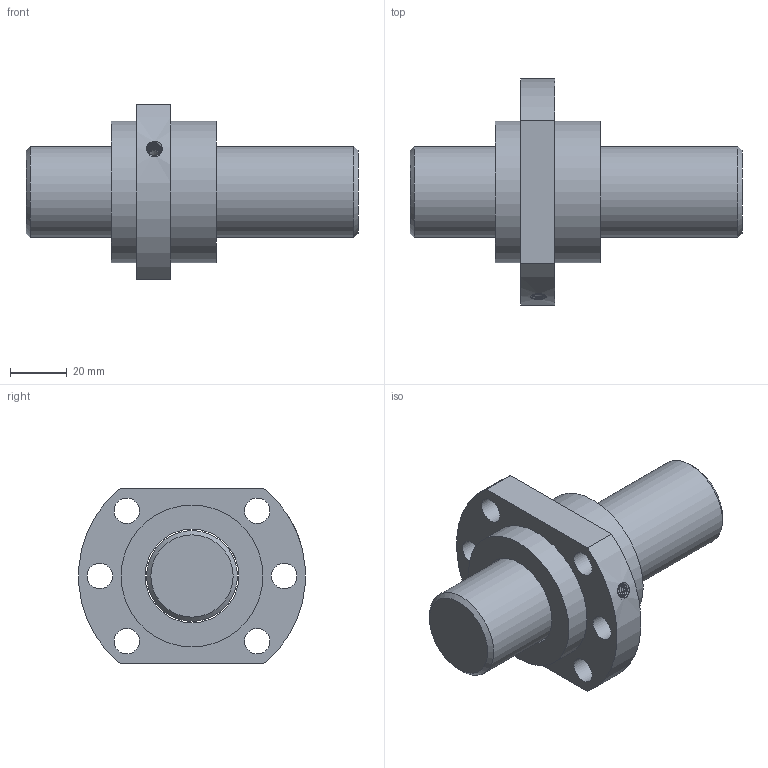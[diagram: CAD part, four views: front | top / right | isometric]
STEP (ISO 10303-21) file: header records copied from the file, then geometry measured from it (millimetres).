
FILE_DESCRIPTION(/* description */ (''),/* implementation_level */ '2;1');
FILE_NAME(/* name */ 'SFH3205-3.8.stp',/* time_stamp */ '2021-02-23T11:29:54+08:00',/* author */ (''),/* organization */ (''),/* preprocessor_version */ 'ST-DEVELOPER v16',/* originating_system */ 'SIEMENS PLM Software NX 10.0',/* authorisation */ '');
FILE_SCHEMA (('AP203_CONFIGURATION_CONTROLLED_3D_DESIGN_OF_MECHANICAL_PARTS_AND_ASSEMBLIES_MIM_LF { 1 0 10303 403 2 1 2}'));
Length unit declared in the file: millimetre
Products named in the file (1): 01541870E69Eyk1k
Bounding box: 117 x 79.74 x 62 mm (x, y, z)
Volume: 159298.2 mm3; surface area: 32572.4 mm2
Topology: 2 solids, 2 shells, 30 faces, 70 edges, 46 vertices
Faces by surface type: cylinder 16, plane 9, cone 3, bspline 2
Full cylindrical faces by diameter (mm): 3 x1, 4.917 x1, 9 x6, 32 x1, 33 x1, 50 x2
Entity records: 3059 total; most frequent: CARTESIAN_POINT 2344, DIRECTION 128, ORIENTED_EDGE 100, EDGE_LOOP 63, AXIS2_PLACEMENT_3D 60, FACE_BOUND 53, EDGE_CURVE 50, VERTEX_POINT 41
